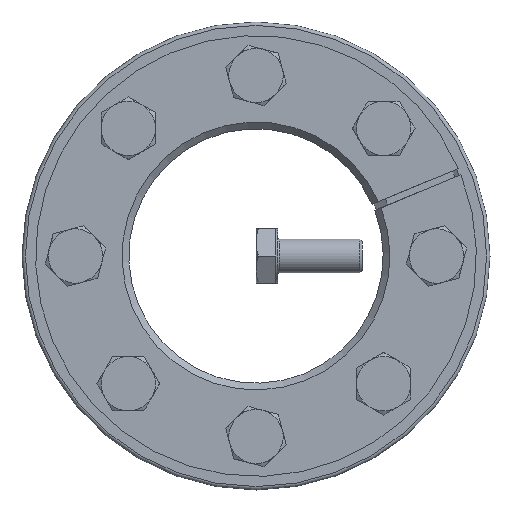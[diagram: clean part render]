
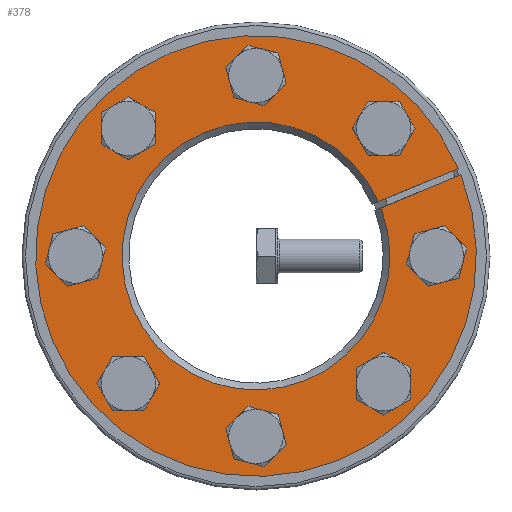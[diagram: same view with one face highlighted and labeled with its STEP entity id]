
A CAD part, front view. The second image highlights one B-rep face of the part: STEP entity #378.
In plain terms, the highlighted planar face has unit normal (0, -1, 0).
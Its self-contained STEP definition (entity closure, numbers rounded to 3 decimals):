
#378 = ADVANCED_FACE( '', ( #622, #623, #624, #625, #626, #627, #628, #629, #630 ), #631, .F. );
#622 = FACE_BOUND( '', #768, .T. );
#623 = FACE_BOUND( '', #769, .T. );
#624 = FACE_BOUND( '', #770, .T. );
#625 = FACE_BOUND( '', #771, .T. );
#626 = FACE_OUTER_BOUND( '', #772, .T. );
#627 = FACE_BOUND( '', #773, .T. );
#628 = FACE_BOUND( '', #774, .T. );
#629 = FACE_BOUND( '', #775, .T. );
#630 = FACE_BOUND( '', #776, .T. );
#631 = PLANE( '', #777 );
#768 = EDGE_LOOP( '', ( #1021 ) );
#769 = EDGE_LOOP( '', ( #1022 ) );
#770 = EDGE_LOOP( '', ( #1023 ) );
#771 = EDGE_LOOP( '', ( #1024 ) );
#772 = EDGE_LOOP( '', ( #1025, #1026, #1027, #1028 ) );
#773 = EDGE_LOOP( '', ( #1029 ) );
#774 = EDGE_LOOP( '', ( #1030 ) );
#775 = EDGE_LOOP( '', ( #1031 ) );
#776 = EDGE_LOOP( '', ( #1032 ) );
#777 = AXIS2_PLACEMENT_3D( '', #1033, #1034, #1035 );
#1021 = ORIENTED_EDGE( '', *, *, #1300, .T. );
#1022 = ORIENTED_EDGE( '', *, *, #1301, .T. );
#1023 = ORIENTED_EDGE( '', *, *, #1302, .T. );
#1024 = ORIENTED_EDGE( '', *, *, #1299, .T. );
#1025 = ORIENTED_EDGE( '', *, *, #1282, .T. );
#1026 = ORIENTED_EDGE( '', *, *, #1285, .T. );
#1027 = ORIENTED_EDGE( '', *, *, #1293, .T. );
#1028 = ORIENTED_EDGE( '', *, *, #1277, .F. );
#1029 = ORIENTED_EDGE( '', *, *, #1303, .T. );
#1030 = ORIENTED_EDGE( '', *, *, #1304, .T. );
#1031 = ORIENTED_EDGE( '', *, *, #1305, .T. );
#1032 = ORIENTED_EDGE( '', *, *, #1306, .T. );
#1033 = CARTESIAN_POINT( '', ( 0., 0., 69. ) );
#1034 = DIRECTION( '', ( 0., 1., 0. ) );
#1035 = DIRECTION( '', ( 0., 0., 1. ) );
#1277 = EDGE_CURVE( '', #1418, #1420, #1421, .T. );
#1282 = EDGE_CURVE( '', #1418, #1426, #1429, .T. );
#1285 = EDGE_CURVE( '', #1426, #1432, #1434, .T. );
#1293 = EDGE_CURVE( '', #1432, #1420, #1446, .T. );
#1299 = EDGE_CURVE( '', #1453, #1453, #1454, .T. );
#1300 = EDGE_CURVE( '', #1455, #1455, #1456, .T. );
#1301 = EDGE_CURVE( '', #1457, #1457, #1458, .T. );
#1302 = EDGE_CURVE( '', #1459, #1459, #1460, .T. );
#1303 = EDGE_CURVE( '', #1461, #1461, #1462, .T. );
#1304 = EDGE_CURVE( '', #1463, #1463, #1464, .T. );
#1305 = EDGE_CURVE( '', #1465, #1465, #1466, .T. );
#1306 = EDGE_CURVE( '', #1467, #1467, #1468, .T. );
#1418 = VERTEX_POINT( '', #1523 );
#1420 = VERTEX_POINT( '', #1528 );
#1421 = LINE( '', #1529, #1530 );
#1426 = VERTEX_POINT( '', #1540 );
#1429 = CIRCLE( '', #1546, 65. );
#1432 = VERTEX_POINT( '', #1549 );
#1434 = LINE( '', #1554, #1555 );
#1446 = CIRCLE( '', #1575, 39.5 );
#1453 = VERTEX_POINT( '', #1584 );
#1454 = CIRCLE( '', #1585, 5. );
#1455 = VERTEX_POINT( '', #1586 );
#1456 = CIRCLE( '', #1587, 5. );
#1457 = VERTEX_POINT( '', #1588 );
#1458 = CIRCLE( '', #1589, 5. );
#1459 = VERTEX_POINT( '', #1590 );
#1460 = CIRCLE( '', #1591, 5. );
#1461 = VERTEX_POINT( '', #1592 );
#1462 = CIRCLE( '', #1593, 5. );
#1463 = VERTEX_POINT( '', #1594 );
#1464 = CIRCLE( '', #1595, 5. );
#1465 = VERTEX_POINT( '', #1596 );
#1466 = CIRCLE( '', #1597, 5. );
#1467 = VERTEX_POINT( '', #1598 );
#1468 = CIRCLE( '', #1599, 5. );
#1523 = CARTESIAN_POINT( '', ( 59.662, 0., 25.795 ) );
#1528 = CARTESIAN_POINT( '', ( 36.099, 0., 16.035 ) );
#1529 = CARTESIAN_POINT( '', ( 59.669, 0., 25.798 ) );
#1530 = VECTOR( '', #1642, 1000. );
#1540 = CARTESIAN_POINT( '', ( 60.428, 0., 23.948 ) );
#1546 = AXIS2_PLACEMENT_3D( '', #1645, #1646, #1647 );
#1549 = CARTESIAN_POINT( '', ( 36.864, 0., 14.187 ) );
#1554 = CARTESIAN_POINT( '', ( 60.435, 0., 23.951 ) );
#1555 = VECTOR( '', #1651, 1000. );
#1575 = AXIS2_PLACEMENT_3D( '', #1660, #1661, #1662 );
#1584 = CARTESIAN_POINT( '', ( 53.25, 0., -5. ) );
#1585 = AXIS2_PLACEMENT_3D( '', #1674, #1675, #1676 );
#1586 = CARTESIAN_POINT( '', ( -5., 0., -53.25 ) );
#1587 = AXIS2_PLACEMENT_3D( '', #1677, #1678, #1679 );
#1588 = CARTESIAN_POINT( '', ( -53.25, 0., 5. ) );
#1589 = AXIS2_PLACEMENT_3D( '', #1680, #1681, #1682 );
#1590 = CARTESIAN_POINT( '', ( 5., 0., 53.25 ) );
#1591 = AXIS2_PLACEMENT_3D( '', #1683, #1684, #1685 );
#1592 = CARTESIAN_POINT( '', ( 41.189, 0., 34.118 ) );
#1593 = AXIS2_PLACEMENT_3D( '', #1686, #1687, #1688 );
#1594 = CARTESIAN_POINT( '', ( -34.118, 0., 41.189 ) );
#1595 = AXIS2_PLACEMENT_3D( '', #1689, #1690, #1691 );
#1596 = CARTESIAN_POINT( '', ( -41.189, 0., -34.118 ) );
#1597 = AXIS2_PLACEMENT_3D( '', #1692, #1693, #1694 );
#1598 = CARTESIAN_POINT( '', ( 34.118, 0., -41.189 ) );
#1599 = AXIS2_PLACEMENT_3D( '', #1695, #1696, #1697 );
#1642 = DIRECTION( '', ( -0.924, 0., -0.383 ) );
#1645 = CARTESIAN_POINT( '', ( 0., 0., 0. ) );
#1646 = DIRECTION( '', ( 0., -1., 0. ) );
#1647 = DIRECTION( '', ( 0., 0., -1. ) );
#1651 = DIRECTION( '', ( -0.924, 0., -0.383 ) );
#1660 = CARTESIAN_POINT( '', ( 0., 0., 0. ) );
#1661 = DIRECTION( '', ( 0., 1., 0. ) );
#1662 = DIRECTION( '', ( 0., 0., 1. ) );
#1674 = CARTESIAN_POINT( '', ( 53.25, 0., 0. ) );
#1675 = DIRECTION( '', ( 0., 1., 0. ) );
#1676 = DIRECTION( '', ( 0., 0., -1. ) );
#1677 = CARTESIAN_POINT( '', ( 0., 0., -53.25 ) );
#1678 = DIRECTION( '', ( 0., 1., 0. ) );
#1679 = DIRECTION( '', ( -1., 0., 0. ) );
#1680 = CARTESIAN_POINT( '', ( -53.25, 0., 0. ) );
#1681 = DIRECTION( '', ( 0., 1., 0. ) );
#1682 = DIRECTION( '', ( 0., 0., 1. ) );
#1683 = CARTESIAN_POINT( '', ( 0., 0., 53.25 ) );
#1684 = DIRECTION( '', ( 0., 1., 0. ) );
#1685 = DIRECTION( '', ( 1., 0., 0. ) );
#1686 = CARTESIAN_POINT( '', ( 37.653, 0., 37.653 ) );
#1687 = DIRECTION( '', ( 0., 1., 0. ) );
#1688 = DIRECTION( '', ( 0.707, 0., -0.707 ) );
#1689 = CARTESIAN_POINT( '', ( -37.653, 0., 37.653 ) );
#1690 = DIRECTION( '', ( 0., 1., 0. ) );
#1691 = DIRECTION( '', ( 0.707, 0., 0.707 ) );
#1692 = CARTESIAN_POINT( '', ( -37.653, 0., -37.653 ) );
#1693 = DIRECTION( '', ( 0., 1., 0. ) );
#1694 = DIRECTION( '', ( -0.707, 0., 0.707 ) );
#1695 = CARTESIAN_POINT( '', ( 37.653, 0., -37.653 ) );
#1696 = DIRECTION( '', ( 0., 1., 0. ) );
#1697 = DIRECTION( '', ( -0.707, 0., -0.707 ) );
